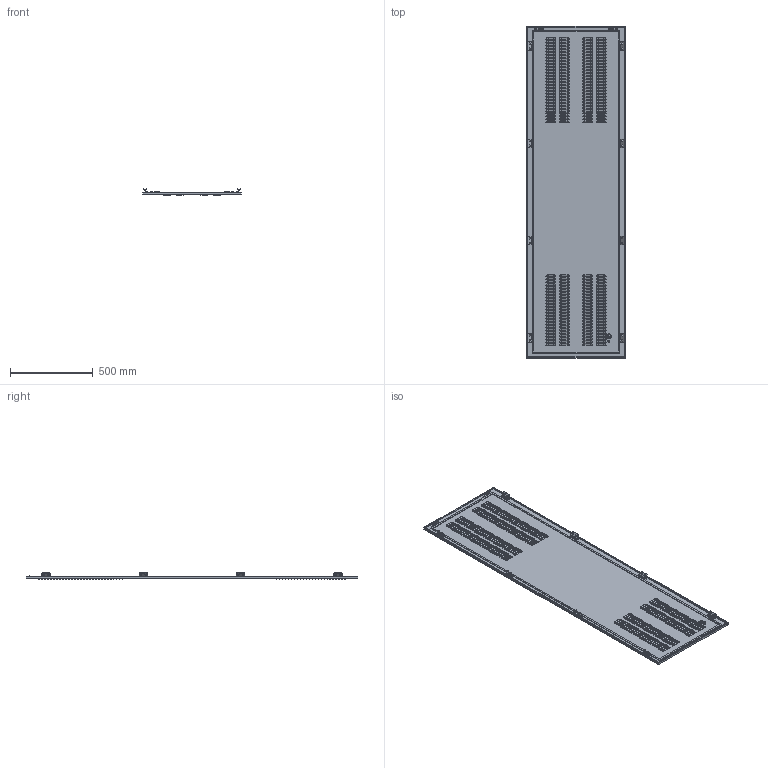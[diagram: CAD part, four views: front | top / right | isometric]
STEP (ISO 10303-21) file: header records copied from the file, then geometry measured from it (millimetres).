
FILE_DESCRIPTION (( 'STEP AP214' ), '1' );
FILE_NAME ('FO-00-PBV-200-060 Ïàíåëü çàäíÿÿ âåíòèëèðóåìàÿ 2000õ600 ìì.STEP', '2025-07-25T14:00:38', ( '' ), ( '' ), 'SwSTEP 2.0', 'SolidWorks 2023', '' );
FILE_SCHEMA (( 'AUTOMOTIVE_DESIGN' ));
Products named in the file (1): FO-00-PBV-200-060 Панель задняя вентилируемая 2000х600 мм
Bounding box: 595 x 2000 x 37.03 mm (x, y, z)
Volume: 2033641.7 mm3; surface area: 2717798.7 mm2
Topology: 1 solids, 1 shells, 4911 faces, 12984 edges, 8123 vertices
Faces by surface type: torus 1696, plane 1596, cylinder 1396, cone 212, bspline 11
Entity records: 155826 total; most frequent: DIRECTION 30485, CARTESIAN_POINT 26738, ORIENTED_EDGE 25964, EDGE_CURVE 12982, AXIS2_PLACEMENT_3D 12654, VERTEX_POINT 8123, CIRCLE 7753, EDGE_LOOP 5449
